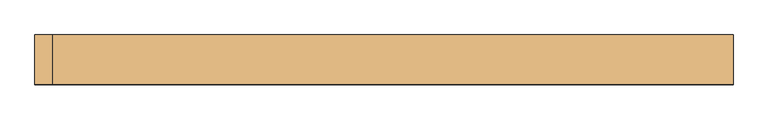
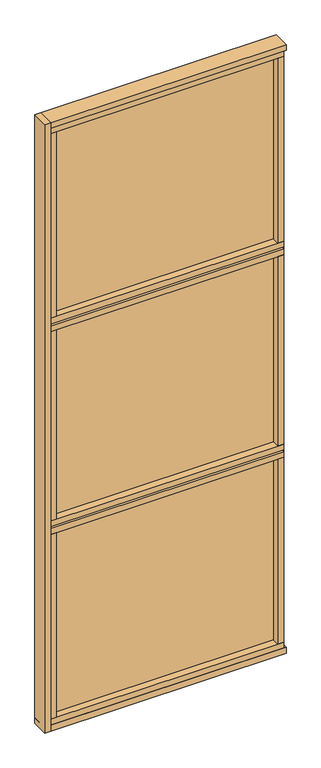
"""IFC4 building model written with IfcOpenShell, lengths in millimetres: door geometry, Mobiliário_Mobiliário de Escritório_Painel de Vidro Simples - AU3T (Inicial e Final)_Marelli : AU3T - Temperado."""

from ifc_helpers import new_model, si_unit, frame, origin, origin_with_axes, place, context, project, spatial, polyline, outline, extrude, source, transform, mapped, element, save


def door_fcc289e8(model_context):
    return source(origin(), model_context, "Body", "SweptSolid", [
        extrude(outline(polyline([(-600.0, -42.5), (-600.0, 42.5), (-570.0, 42.5), (-570.0, -42.5), (-600.0, -42.5)])), origin_with_axes(), (0.0, 0.0, 1.0), 3200.0),
        extrude(outline(polyline([(590.0, -21.5), (590.0, 21.5), (600.0, 21.5), (600.0, -21.5), (590.0, -21.5)])), frame((0.0, 0.0, 30.0), z_axis=(0.0, 0.0, 1.0), x_axis=(1.0, 0.0, 0.0)), (0.0, 0.0, 1.0), 3140.0),
        extrude(outline(polyline([(590.0, 39.5), (590.0, -39.5), (-570.0, -39.5), (-570.0, 39.5), (590.0, 39.5)])), frame((0.0, 0.0, 3140.0), z_axis=(0.0, 0.0, 1.0), x_axis=(1.0, 0.0, 0.0)), (0.0, 0.0, 1.0), 30.0),
        extrude(outline(polyline([(600.0, 42.5), (600.0, -42.5), (-570.0, -42.5), (-570.0, 42.5), (600.0, 42.5)])), frame((0.0, 0.0, 3170.0), z_axis=(0.0, 0.0, 1.0), x_axis=(1.0, 0.0, 0.0)), (0.0, 0.0, 1.0), 30.0),
        extrude(outline(polyline([(560.0, 3.0), (560.0, -3.0), (-540.0, -3.0), (-540.0, 3.0), (560.0, 3.0)])), frame((0.0, 0.0, 2168.3333333), z_axis=(0.0, 0.0, 1.0), x_axis=(1.0, 0.0, 0.0)), (0.0, 0.0, 1.0), 971.6666667),
        extrude(outline(polyline([(-540.0, 39.5), (-540.0, -39.5), (-570.0, -39.5), (-570.0, 39.5), (-540.0, 39.5)])), frame((0.0, 0.0, 2168.3333333), z_axis=(0.0, 0.0, 1.0), x_axis=(1.0, 0.0, 0.0)), (0.0, 0.0, 1.0), 971.6666667),
        extrude(outline(polyline([(560.0, 39.5), (590.0, 39.5), (590.0, -39.5), (560.0, -39.5), (560.0, 39.5)])), frame((0.0, 0.0, 2168.3333333), z_axis=(0.0, 0.0, 1.0), x_axis=(1.0, 0.0, 0.0)), (0.0, 0.0, 1.0), 971.6666667),
        extrude(outline(polyline([(-540.0, 39.5), (-540.0, -39.5), (-570.0, -39.5), (-570.0, 39.5), (-540.0, 39.5)])), frame((0.0, 0.0, 60.0), z_axis=(0.0, 0.0, 1.0), x_axis=(1.0, 0.0, 0.0)), (0.0, 0.0, 1.0), 971.6666667),
        extrude(outline(polyline([(560.0, 39.5), (590.0, 39.5), (590.0, -39.5), (560.0, -39.5), (560.0, 39.5)])), frame((0.0, 0.0, 60.0), z_axis=(0.0, 0.0, 1.0), x_axis=(1.0, 0.0, 0.0)), (0.0, 0.0, 1.0), 971.6666667),
        extrude(outline(polyline([(590.0, 39.5), (590.0, -39.5), (-570.0, -39.5), (-570.0, 39.5), (590.0, 39.5)])), frame((0.0, 0.0, 30.0), z_axis=(0.0, 0.0, 1.0), x_axis=(1.0, 0.0, 0.0)), (0.0, 0.0, 1.0), 30.0),
        extrude(outline(polyline([(560.0, 3.0), (560.0, -3.0), (-540.0, -3.0), (-540.0, 3.0), (560.0, 3.0)])), frame((0.0, 0.0, 60.0), z_axis=(0.0, 0.0, 1.0), x_axis=(1.0, 0.0, 0.0)), (0.0, 0.0, 1.0), 971.6666667),
        extrude(outline(polyline([(590.0, 39.5), (590.0, -39.5), (-570.0, -39.5), (-570.0, 39.5), (590.0, 39.5)])), frame((0.0, 0.0, 2138.3333333), z_axis=(0.0, 0.0, 1.0), x_axis=(1.0, 0.0, 0.0)), (0.0, 0.0, 1.0), 30.0),
        extrude(outline(polyline([(590.0, 21.5), (590.0, -21.5), (-570.0, -21.5), (-570.0, 21.5), (590.0, 21.5)])), frame((0.0, 0.0, 2128.3333333), z_axis=(0.0, 0.0, 1.0), x_axis=(1.0, 0.0, 0.0)), (0.0, 0.0, 1.0), 10.0),
        extrude(outline(polyline([(590.0, 39.5), (590.0, -39.5), (-570.0, -39.5), (-570.0, 39.5), (590.0, 39.5)])), frame((0.0, 0.0, 2098.3333333), z_axis=(0.0, 0.0, 1.0), x_axis=(1.0, 0.0, 0.0)), (0.0, 0.0, 1.0), 30.0),
        extrude(outline(polyline([(590.0, 21.5), (590.0, -21.5), (-570.0, -21.5), (-570.0, 21.5), (590.0, 21.5)])), frame((0.0, 0.0, 1061.6666667), z_axis=(0.0, 0.0, 1.0), x_axis=(1.0, 0.0, 0.0)), (0.0, 0.0, 1.0), 10.0),
        extrude(outline(polyline([(590.0, 39.5), (590.0, -39.5), (-570.0, -39.5), (-570.0, 39.5), (590.0, 39.5)])), frame((0.0, 0.0, 1071.6666667), z_axis=(0.0, 0.0, 1.0), x_axis=(1.0, 0.0, 0.0)), (0.0, 0.0, 1.0), 30.0),
        extrude(outline(polyline([(590.0, 39.5), (590.0, -39.5), (-570.0, -39.5), (-570.0, 39.5), (590.0, 39.5)])), frame((0.0, 0.0, 1031.6666667), z_axis=(0.0, 0.0, 1.0), x_axis=(1.0, 0.0, 0.0)), (0.0, 0.0, 1.0), 30.0),
        extrude(outline(polyline([(600.0, 42.5), (600.0, -42.5), (-600.0, -42.5), (-600.0, 42.5), (600.0, 42.5)])), origin_with_axes(), (0.0, 0.0, 1.0), 30.0),
        extrude(outline(polyline([(560.0, 3.0), (560.0, -3.0), (-540.0, -3.0), (-540.0, 3.0), (560.0, 3.0)])), frame((0.0, 0.0, 1101.6666667), z_axis=(0.0, 0.0, 1.0), x_axis=(1.0, 0.0, 0.0)), (0.0, 0.0, 1.0), 996.6666667),
        extrude(outline(polyline([(-540.0, 39.5), (-540.0, -39.5), (-570.0, -39.5), (-570.0, 39.5), (-540.0, 39.5)])), frame((0.0, 0.0, 1101.6666667), z_axis=(0.0, 0.0, 1.0), x_axis=(1.0, 0.0, 0.0)), (0.0, 0.0, 1.0), 996.6666667),
        extrude(outline(polyline([(560.0, 39.5), (590.0, 39.5), (590.0, -39.5), (560.0, -39.5), (560.0, 39.5)])), frame((0.0, 0.0, 1101.6666667), z_axis=(0.0, 0.0, 1.0), x_axis=(1.0, 0.0, 0.0)), (0.0, 0.0, 1.0), 996.6666667),
    ])


if __name__ == "__main__":
    model = new_model("IFC4")
    model_context = context("Model", 3, world=origin())
    ifc_project = project(units=[si_unit("LENGTHUNIT", "METRE", prefix="MILLI")], contexts=[model_context])
    site = spatial("IfcSite", under=ifc_project)
    building = spatial("IfcBuilding", under=site)
    placement = place(None, origin())
    door_shape = door_fcc289e8(model_context)
    element("IfcDoor", 1, ObjectType="Mobiliário_Mobiliário de Escritório_Painel de Vidro Simples - AU3T (Inicial e Final)_Marelli : AU3T - Temperado", at=placement, inside=building, context=model_context, shape_type="MappedRepresentation", body=[
        mapped(door_shape, transform((0.0, 0.0, 0.0), x_axis=(1.0, 0.0, 0.0), y_axis=(0.0, 1.0, 0.0), z_axis=(0.0, 0.0, 1.0))),
    ])
    save(model, "model.ifc")
